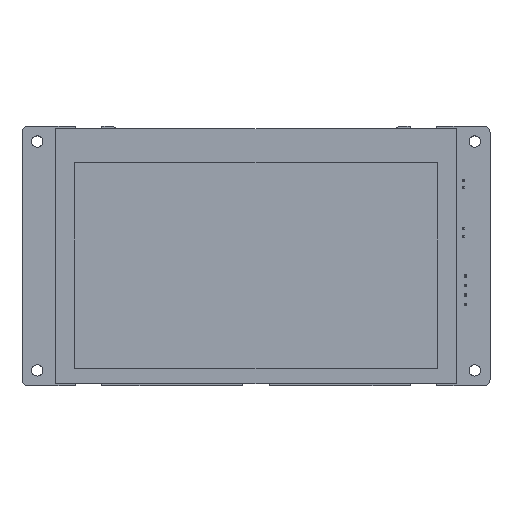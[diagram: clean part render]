
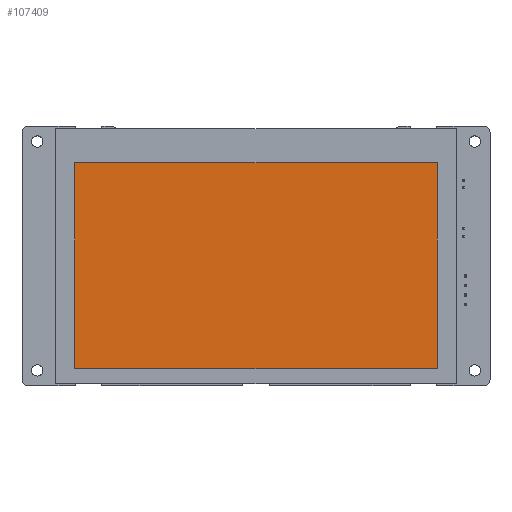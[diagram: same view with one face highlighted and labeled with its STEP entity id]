
A CAD part, top view. The second image highlights one B-rep face of the part: STEP entity #107409.
In plain terms, the highlighted planar face has unit normal (0, 0, 1) as drawn and (0, 1, 0) by its records, which use the part's own axes.
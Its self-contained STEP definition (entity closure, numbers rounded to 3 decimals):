
#8774=PLANE('',#113783);
#12809=FACE_OUTER_BOUND('',#18497,.T.);
#18497=EDGE_LOOP('',(#76107,#76108,#76109,#76110));
#24471=LINE('',#147278,#36692);
#24474=LINE('',#147284,#36695);
#24477=LINE('',#147290,#36698);
#24480=LINE('',#147294,#36701);
#36692=VECTOR('',#121017,10.);
#36695=VECTOR('',#121022,10.);
#36698=VECTOR('',#121027,10.);
#36701=VECTOR('',#121032,10.);
#50323=VERTEX_POINT('',#147275);
#50324=VERTEX_POINT('',#147277);
#50326=VERTEX_POINT('',#147283);
#50328=VERTEX_POINT('',#147289);
#60465=EDGE_CURVE('',#50324,#50323,#24471,.T.);
#60468=EDGE_CURVE('',#50326,#50324,#24474,.T.);
#60471=EDGE_CURVE('',#50328,#50326,#24477,.T.);
#60474=EDGE_CURVE('',#50323,#50328,#24480,.T.);
#76107=ORIENTED_EDGE('',*,*,#60474,.T.);
#76108=ORIENTED_EDGE('',*,*,#60471,.T.);
#76109=ORIENTED_EDGE('',*,*,#60468,.T.);
#76110=ORIENTED_EDGE('',*,*,#60465,.T.);
#107409=ADVANCED_FACE('',(#12809),#8774,.T.);
#113783=AXIS2_PLACEMENT_3D('',#147295,#121033,#121034);
#121017=DIRECTION('',(1.,0.,0.));
#121022=DIRECTION('',(0.,0.,1.));
#121027=DIRECTION('',(-1.,0.,0.));
#121032=DIRECTION('',(0.,0.,-1.));
#121033=DIRECTION('center_axis',(0.,1.,0.));
#121034=DIRECTION('ref_axis',(0.,0.,1.));
#147275=CARTESIAN_POINT('',(47.75,4.6,29.636));
#147277=CARTESIAN_POINT('',(-47.75,4.6,29.636));
#147278=CARTESIAN_POINT('',(-47.75,4.6,29.636));
#147283=CARTESIAN_POINT('',(-47.75,4.6,-24.564));
#147284=CARTESIAN_POINT('',(-47.75,4.6,-24.564));
#147289=CARTESIAN_POINT('',(47.75,4.6,-24.564));
#147290=CARTESIAN_POINT('',(47.75,4.6,-24.564));
#147294=CARTESIAN_POINT('',(47.75,4.6,29.636));
#147295=CARTESIAN_POINT('Origin',(0.,4.6,2.536));
